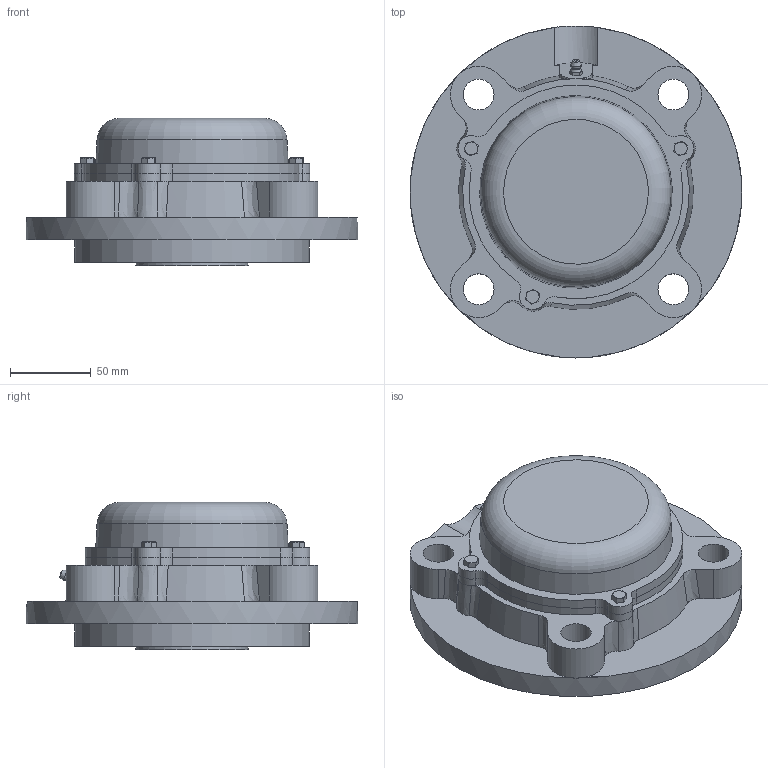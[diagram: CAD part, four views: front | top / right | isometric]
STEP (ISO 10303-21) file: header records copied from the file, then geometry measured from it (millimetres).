
FILE_DESCRIPTION((''),'2;1');
FILE_NAME('\\Ts-tgl068\j-cad-d-base\00.3DCADデータ作成フォルダ\02.フランジ形\CUKFC200\CUKFC213CE+H.stp','2014-05-22T08:58:16',('btec_1106_2'),(''),'Autodesk Inventor 2012','Autodesk Inventor 2012','');
FILE_SCHEMA(('AUTOMOTIVE_DESIGN { 1 0 10303 214 1 1 1 1 }'));
Length unit declared in the file: millimetre
Products named in the file (7): CUKFC200CE+H; CFC213; UK213; GU1; 213CE; M5X0
Assembly tree (8 placements, depth 3):
  CUKFC200CE+H
    CFC213
    UK213
    GU1
    213CE
      213CE
      M5X0  x3
Bounding box: 205 x 205 x 91 mm (x, y, z)
Volume: 972168.4 mm3; surface area: 205337.7 mm2
Topology: 7 solids, 7 shells, 318 faces, 789 edges, 500 vertices
Faces by surface type: plane 123, cylinder 91, cone 82, bspline 14, sphere 4, torus 4
Full cylindrical faces by diameter (mm): 4.134 x3, 5 x3, 5.359 x1, 6 x3, 6.35 x1, 19 x4, 60 x1, 65 x1, 82.1 x2, 118 x1, 122 x1, 145 x1, 205 x1
Entity records: 9025 total; most frequent: CARTESIAN_POINT 2447, DIRECTION 1333, ORIENTED_EDGE 1326, EDGE_CURVE 663, AXIS2_PLACEMENT_3D 557, VERTEX_POINT 437, EDGE_LOOP 356, FACE_OUTER_BOUND 284
